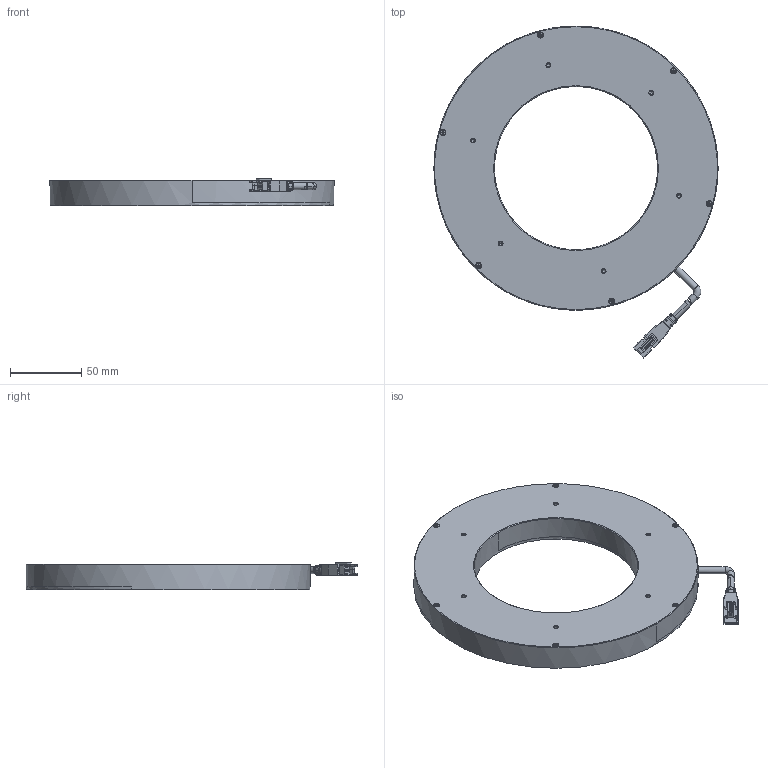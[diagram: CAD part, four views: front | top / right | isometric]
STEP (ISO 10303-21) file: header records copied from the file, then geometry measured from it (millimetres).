
FILE_DESCRIPTION((''),'2;1');
FILE_NAME('MV-LRDS-200-90-X_ASM','2023-09-15T15:11:57',('qiaoxuan5'),(''),'CREO PARAMETRIC BY PTC INC, 2020044','CREO PARAMETRIC BY PTC INC, 2020044','');
FILE_SCHEMA(('CONFIG_CONTROL_DESIGN'));
Length unit declared in the file: millimetre
Products named in the file (1): MV-LRDS-200-90-X_ASM
Bounding box: 200 x 233.58 x 19.2 mm (x, y, z)
Volume: 361588 mm3; surface area: 107348.8 mm2
Topology: 2 solids, 14 shells, 610 faces, 1502 edges, 913 vertices
Faces by surface type: plane 314, cylinder 174, cone 82, torus 22, sphere 8, bspline 8, extrusion 2
Entity records: 18366 total; most frequent: CARTESIAN_POINT 3950, DIRECTION 3053, ORIENTED_EDGE 2940, EDGE_CURVE 1470, AXIS2_PLACEMENT_3D 1075, VERTEX_POINT 913, VECTOR 903, LINE 901
